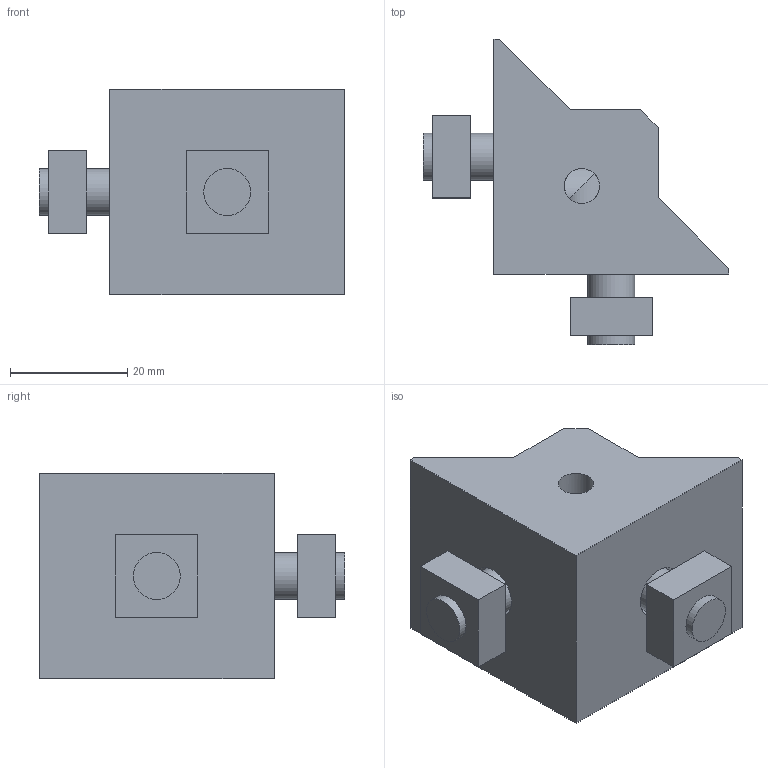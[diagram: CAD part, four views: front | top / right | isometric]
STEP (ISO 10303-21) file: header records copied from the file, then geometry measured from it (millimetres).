
FILE_DESCRIPTION((''),'2;1');
FILE_NAME('C:\Documents and Settings\AMS8\デスクトップ\2013from西村作業用\既存3D\M8ブラケット差分\ABLB-4035-8-T\ABLB-4035-8-T.stp','2013-08-07T17:47:25',('AMS8'),(''),'Autodesk Inventor 2008','Autodesk Inventor 2008','');
FILE_SCHEMA(('AUTOMOTIVE_DESIGN { 1 0 10303 214 1 1 1 1 }'));
Length unit declared in the file: millimetre
Products named in the file (6): ABLB-4035-8-T; ABLB-4035-8-T1; ABLB-4035-8-T2; ABLB-4035-8-T3; ABLB-4035-8-T4; ABLB-4035-8-T5
Assembly tree (5 placements, depth 2):
  ABLB-4035-8-T
    ABLB-4035-8-T1
    ABLB-4035-8-T2
    ABLB-4035-8-T3
    ABLB-4035-8-T4
    ABLB-4035-8-T5
Bounding box: 52 x 52 x 35 mm (x, y, z)
Volume: 32039.5 mm3; surface area: 11924.1 mm2
Topology: 5 solids, 5 shells, 50 faces, 111 edges, 72 vertices
Faces by surface type: plane 37, cylinder 13
Full cylindrical faces by diameter (mm): 6 x1, 8 x4, 9 x2, 13 x2, 14 x2
Entity records: 1576 total; most frequent: CARTESIAN_POINT 312, DIRECTION 245, ORIENTED_EDGE 198, EDGE_CURVE 99, AXIS2_PLACEMENT_3D 89, EDGE_LOOP 72, VERTEX_POINT 71, VECTOR 67
